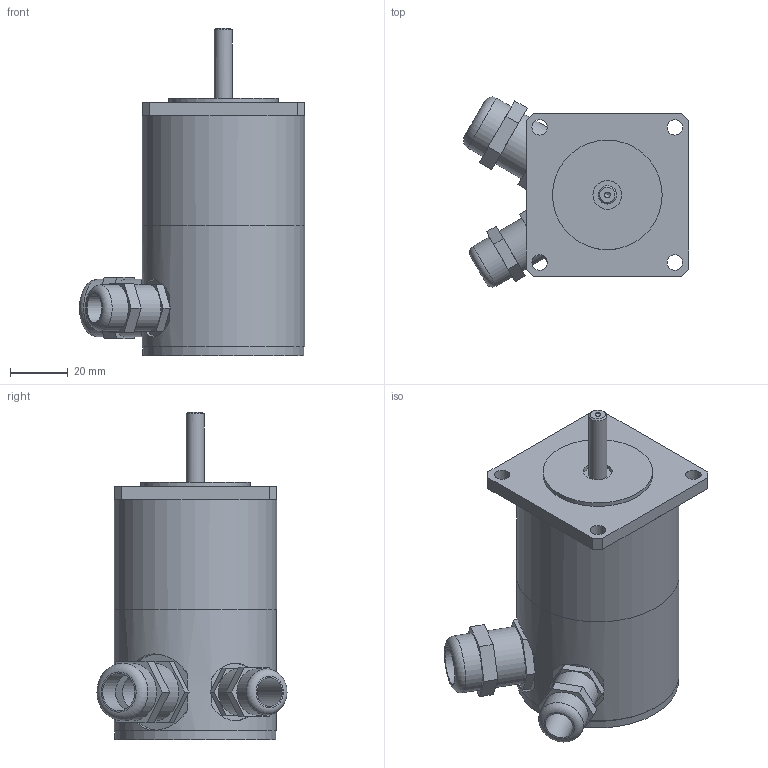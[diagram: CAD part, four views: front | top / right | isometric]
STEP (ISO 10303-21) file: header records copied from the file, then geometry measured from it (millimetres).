
FILE_DESCRIPTION((''),'2;1');
FILE_NAME('C:\Users\Reinhard\Documents\Inventor\Testschrittmotor\SM56\SM 56.1-E50-KV.stp','2012-11-14T20:45:54',('Reinhard'),(''),'Autodesk Inventor 2012','Autodesk Inventor 2012','');
FILE_SCHEMA(('CONFIG_CONTROL_DESIGN'));
Length unit declared in the file: millimetre
Products named in the file (1): SM 56
Bounding box: 78.27 x 66.07 x 113.7 mm (x, y, z)
Volume: 69918.9 mm3; surface area: 46441.2 mm2
Topology: 2 solids, 2 shells, 106 faces, 238 edges, 154 vertices
Faces by surface type: plane 70, cylinder 32, torus 2, cone 2
Full cylindrical faces by diameter (mm): 2 x1, 5.4 x4, 6.35 x2, 10 x2, 12 x2, 13 x2, 15 x2, 16 x2, 18.376 x1, 20 x3, 38.1 x1, 48 x1, 51.5 x1, 53.5 x1, 56 x1, 56.5 x2
Entity records: 2910 total; most frequent: CARTESIAN_POINT 585, DIRECTION 470, ORIENTED_EDGE 400, EDGE_CURVE 200, AXIS2_PLACEMENT_3D 173, EDGE_LOOP 172, VERTEX_POINT 148, VECTOR 124
